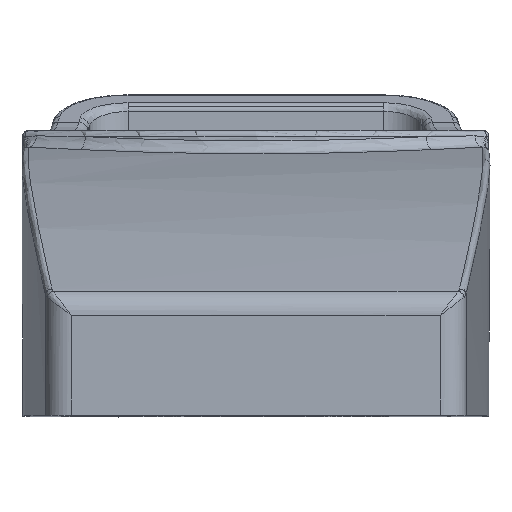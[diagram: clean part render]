
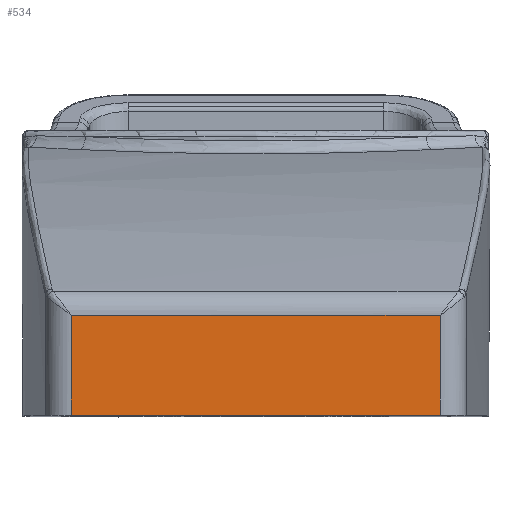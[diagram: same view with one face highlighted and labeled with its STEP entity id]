
A CAD part, top view. The second image highlights one B-rep face of the part: STEP entity #534.
In plain terms, the highlighted planar face has unit normal (0, 0, 1).
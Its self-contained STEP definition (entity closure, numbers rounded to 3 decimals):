
#534=ADVANCED_FACE('',(#1024),#1025,.T.);
#1024=FACE_OUTER_BOUND('',#4365,.T.);
#1025=PLANE('',#4366);
#4365=EDGE_LOOP('',(#5701,#5702,#5703,#5704));
#4366=AXIS2_PLACEMENT_3D('',#5705,#5706,#5707);
#5701=ORIENTED_EDGE('',*,*,#7925,.F.);
#5702=ORIENTED_EDGE('',*,*,#7952,.T.);
#5703=ORIENTED_EDGE('',*,*,#7911,.F.);
#5704=ORIENTED_EDGE('',*,*,#7915,.F.);
#5705=CARTESIAN_POINT('',(16.0,0.,46.0));
#5706=DIRECTION('',(0.,0.0,1.0));
#5707=DIRECTION('',(1.0,0.,0.));
#7911=EDGE_CURVE('',#8974,#8999,#9000,.T.);
#7915=EDGE_CURVE('',#9004,#8974,#9006,.T.);
#7925=EDGE_CURVE('',#9019,#9004,#9021,.T.);
#7952=EDGE_CURVE('',#9019,#8999,#9056,.T.);
#8974=VERTEX_POINT('',#11414);
#8999=VERTEX_POINT('',#11503);
#9000=LINE('',#11504,#11505);
#9004=VERTEX_POINT('',#11510);
#9006=LINE('',#11512,#11513);
#9019=VERTEX_POINT('',#11575);
#9021=LINE('',#11577,#11578);
#9056=LINE('',#11637,#11638);
#11414=CARTESIAN_POINT('',(14.183,-4.827,46.0));
#11503=CARTESIAN_POINT('',(14.183,-12.5,46.0));
#11504=CARTESIAN_POINT('',(14.183,-4.827,46.0));
#11505=VECTOR('',#13674,7.673);
#11510=CARTESIAN_POINT('',(-14.183,-4.827,46.0));
#11512=CARTESIAN_POINT('',(-14.183,-4.827,46.0));
#11513=VECTOR('',#13682,28.365);
#11575=CARTESIAN_POINT('',(-14.183,-12.5,46.0));
#11577=CARTESIAN_POINT('',(-14.183,-12.5,46.0));
#11578=VECTOR('',#13702,7.673);
#11637=CARTESIAN_POINT('',(-14.183,-12.5,46.0));
#11638=VECTOR('',#13762,28.365);
#13674=DIRECTION('',(0.,-1.0,0.));
#13682=DIRECTION('',(1.0,0.,0.));
#13702=DIRECTION('',(0.,1.0,0.));
#13762=DIRECTION('',(1.0,0.,0.));
